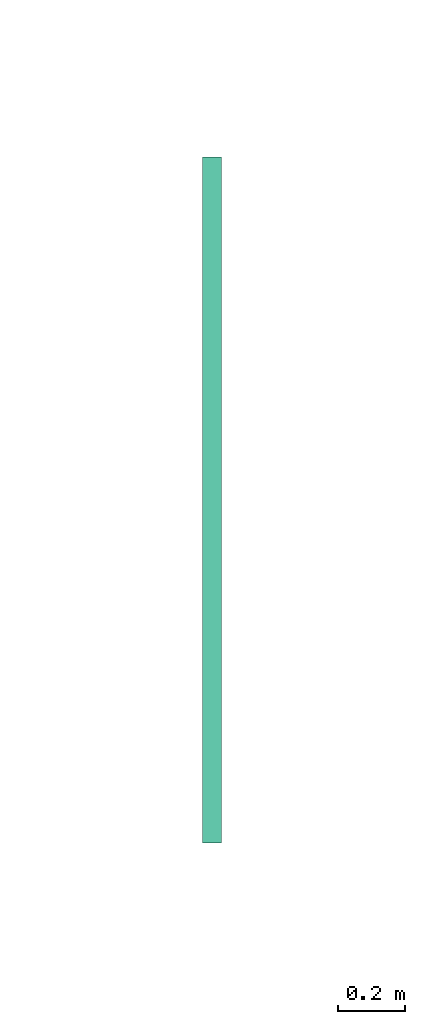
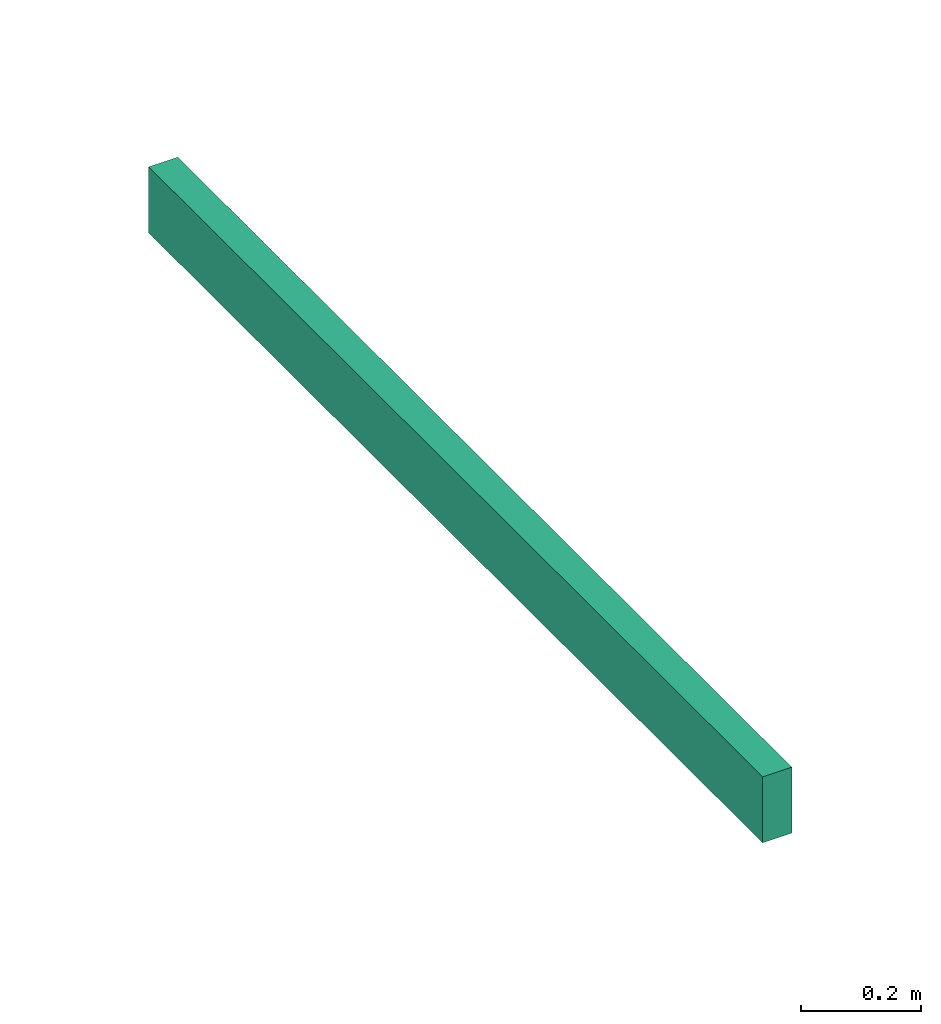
# One storey, part 2 of 9: 1 flow segment.
"""IFC2X3 building model written with IfcOpenShell, lengths in metres."""

from ifc_helpers import new_model, entity, si_unit, converted_unit, derived_unit, direction, frame, frame_2d, origin, place, context, subcontext, project, spatial, rectangle, extrude, type_object, element, save


model = new_model("IFC2X3")

# Units and contexts
model_context = context("Model", 3, precision=1e-05, world=origin(), true_north=direction((6.12303176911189e-17, 1.0)))
body_context = subcontext(model_context, "Body", "Model", "MODEL_VIEW")
ifc_project = project(units=[si_unit("LENGTHUNIT", "METRE"), si_unit("AREAUNIT", "SQUARE_METRE"), si_unit("VOLUMEUNIT", "CUBIC_METRE"), converted_unit("PLANEANGLEUNIT", "DEGREE", entity("IfcRatioMeasure", 0.0174532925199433), si_unit("PLANEANGLEUNIT", "RADIAN"), dimensions=[0, 0, 0, 0, 0, 0, 0]), si_unit("MASSUNIT", "GRAM", prefix="KILO"), derived_unit("MASSDENSITYUNIT", [(si_unit("MASSUNIT", "GRAM", prefix="KILO"), 1), (si_unit("LENGTHUNIT", "METRE"), -3)]), si_unit("TIMEUNIT", "SECOND"), si_unit("FREQUENCYUNIT", "HERTZ"), si_unit("THERMODYNAMICTEMPERATUREUNIT", "DEGREE_CELSIUS"), derived_unit("THERMALTRANSMITTANCEUNIT", [(si_unit("MASSUNIT", "GRAM", prefix="KILO"), 1), (si_unit("THERMODYNAMICTEMPERATUREUNIT", "KELVIN"), -1), (si_unit("TIMEUNIT", "SECOND"), -3)]), derived_unit("VOLUMETRICFLOWRATEUNIT", [(si_unit("LENGTHUNIT", "METRE"), 3), (si_unit("TIMEUNIT", "SECOND"), -1)]), si_unit("ELECTRICCURRENTUNIT", "AMPERE"), si_unit("ELECTRICVOLTAGEUNIT", "VOLT"), si_unit("POWERUNIT", "WATT"), si_unit("FORCEUNIT", "NEWTON"), si_unit("ILLUMINANCEUNIT", "LUX"), si_unit("LUMINOUSFLUXUNIT", "LUMEN"), si_unit("LUMINOUSINTENSITYUNIT", "CANDELA"), derived_unit("USERDEFINED", [(si_unit("MASSUNIT", "GRAM", prefix="KILO"), -1), (si_unit("LENGTHUNIT", "METRE"), -2), (si_unit("TIMEUNIT", "SECOND"), 3), (si_unit("LUMINOUSFLUXUNIT", "LUMEN"), 1)]), derived_unit("LINEARVELOCITYUNIT", [(si_unit("LENGTHUNIT", "METRE"), 1), (si_unit("TIMEUNIT", "SECOND"), -1)]), si_unit("PRESSUREUNIT", "PASCAL"), derived_unit("USERDEFINED", [(si_unit("LENGTHUNIT", "METRE"), -2), (si_unit("MASSUNIT", "GRAM", prefix="KILO"), 1), (si_unit("TIMEUNIT", "SECOND"), -2)])], contexts=[model_context])

# Site, building, storey
site_placement = place(None, origin())
site = spatial("IfcSite", under=ifc_project, at=site_placement, Name="Default", CompositionType="ELEMENT")
building_placement = place(site_placement, origin())
building = spatial("IfcBuilding", under=site, at=building_placement, CompositionType="ELEMENT")
storey_placement = place(building_placement, frame((0.0, 0.0, -0.0599999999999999)))
storey = spatial("IfcBuildingStorey", under=building, at=storey_placement, Name="S01", CompositionType="ELEMENT", Elevation=-0.0599999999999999)

# Flow segment
cable_carrier_segment_type = type_object("IfcCableCarrierSegmentType", Name="Cable Tray with Fittings:Goulottes de câbles indéfini_Goulottes de câbles", PredefinedType="NOTDEFINED")
flow_segment_placement = place(storey_placement, origin())
element("IfcFlowSegment", 1, at=flow_segment_placement, inside=storey, type_object=cable_carrier_segment_type, Name="Cable Tray with Fittings:Goulottes de câbles indéfini_Goulottes de câbles", ObjectType="Cable Tray with Fittings:Goulottes de câbles indéfini_Goulottes de câbles", context=body_context, shape_type="SweptSolid", body=[
    extrude(rectangle(XDim=2.041, YDim=0.0560000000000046, at=frame_2d((-1.73194791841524e-14, 0.0), x_axis=(1.0, 0.0))), frame((40.8311955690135, -188.774364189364, 0.3), z_axis=(0.0, 0.0, 1.0), x_axis=(0.0, 1.0, 0.0)), (0.0, 0.0, 1.0), 0.134),
])

save(model, "model.ifc")
